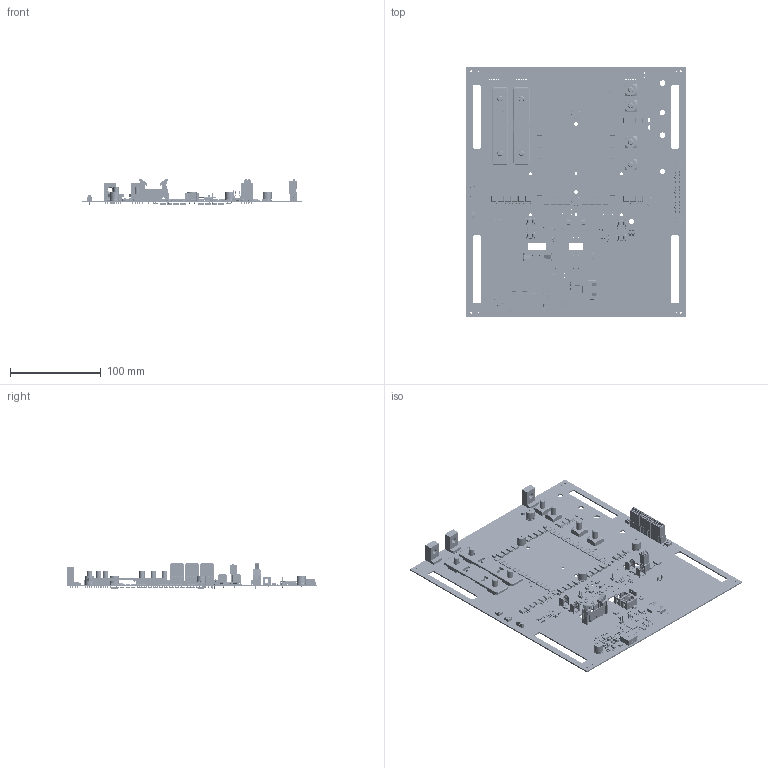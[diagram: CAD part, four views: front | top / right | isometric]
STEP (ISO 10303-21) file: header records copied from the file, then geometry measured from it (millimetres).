
FILE_DESCRIPTION(('KiCad electronic assembly'),'2;1');
FILE_NAME('smartPro.step','2025-07-12T19:04:55',('Pcbnew'),('Kicad'), 'Open CASCADE STEP processor 7.9','KiCad to STEP converter','Unknown' );
FILE_SCHEMA(('AUTOMOTIVE_DESIGN { 1 0 10303 214 1 1 1 1 }'));
Length unit declared in the file: millimetre
Products named in the file (77): smartPro 1; D_SMC; R_0603_1608Metric; C_0603_1608Metric; PinHeader_2x05_P1.27mm_Vertical_SMD; C_1210_3225Metric; CP_Radial_D10.0mm_P5.00mm; PinHeader_1x02_P2.54mm_Vertical; 61201022021; 10; 6120xx22x21_LEVIER_COURT; 6120xx21621_PIN; TO-252-2; smartPro 1.20.1; SOIC-8_5.3x5.3mm_P1.27mm; LED_0603_1608Metric; PQFN-8-EP_6x5mm_P1.27mm_Generic; SOT-23; LQH32CN2R2M53L; Rect1; Rect2; Rect3; Rect4; Rect5; Pad0; Pad1; 7461098; WSBS8518-35_500ÂµO; wsbs 8518 500 micro...; PIN-1001 FOR WSBS 100 E; 430152043826 (rev1); C_1206_3216Metric; SOT-353_SC-70-5; SOT-23-5; D_SMB; 74622106; Download_STEP_691304100004 (rev1); 691304100004; 691304100004_Bas; 6913041000xx_Levier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
Assembly tree (528 placements, depth 3):
  smartPro 1
    D_SMC  x33
    R_0603_1608Metric  x163
    C_0603_1608Metric  x74
    PinHeader_2x05_P1.27mm_Vertical_SMD
    C_1210_3225Metric  x19
    CP_Radial_D10.0mm_P5.00mm  x5
    PinHeader_1x02_P2.54mm_Vertical  x3
    61201022021
      10
      6120xx22x21_LEVIER_COURT  x2
      6120xx21621_PIN  x10
    TO-252-2  x12
      smartPro 1.20.1
    SOIC-8_5.3x5.3mm_P1.27mm
    LED_0603_1608Metric  x11
    PQFN-8-EP_6x5mm_P1.27mm_Generic  x65
    SOT-23  x9
    LQH32CN2R2M53L  x3
      Rect1
      Rect2
      Rect3
      Rect4
      Rect5
      Pad0
      Pad1
    7461098  x8
    WSBS8518-35_500ÂµO  x2
      wsbs 8518 500 micro...
      PIN-1001 FOR WSBS 100 E
    430152043826 (rev1)  x4
    C_1206_3216Metric  x9
    SOT-353_SC-70-5  x2
    SOT-23-5  x6
    D_SMB  x2
    74622106  x3
    Download_STEP_691304100004 (rev1)  x3
      691304100004
      691304100004_Bas
      6913041000xx_Levier
      6913041000xx_Pin
      6913041000xx_Lamelle
    HSOP-8-1EP_3.9x4.9mm_P1.27mm_EP2.41x3.1mm  x2
    ws-sltv_450301014042 (rev1)  x2
      cover
      slide
    SOT-23-8  x2
    45A-VERT-PAIR
    Download_STP_WE-LQFS-4818 (rev1)  x2
      4818_74406042_Housing
      4818_74406042
      4818_74406042
      4818_74406042_Pads
      Glue L
      Glue R
    SO-4_4.4x4.3mm_P2.54mm  x2
    SOT-23-6  x2
    PhoenixContact_MCV_1,5_2-G-3.5_1x02_P3.50mm_Vertical
    L_0805_2012Metric
    SOIC-8_3.9x4.9mm_P1.27mm  x2
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Bounding box: 241 x 275.04 x 29.5 mm (x, y, z)
Volume: 148624.4 mm3; surface area: 206440.7 mm2
Topology: 656 solids, 661 shells, 31477 faces, 81627 edges, 52252 vertices
Faces by surface type: plane 24229, cylinder 6095, bspline 881, cone 122, torus 78, extrusion 52, revolution 20
Full cylindrical faces by diameter (mm): 0.1 x28, 0.155 x2, 0.3 x24, 0.5 x1, 0.6 x6, 0.66 x1, 0.7 x19, 0.8 x6, 1 x74, 1.2 x44, 1.4 x2, 1.45 x275, 1.6 x4, 1.9 x2, 2.2 x4, 2.35 x2, 2.5 x16, 3.2 x6, 3.5 x4, 4.3 x2, 4.917 x3, 6 x21
Entity records: 289072 total; most frequent: CARTESIAN_POINT 47740, ORIENTED_EDGE 40985, DIRECTION 39199, EDGE_CURVE 20494, VECTOR 16009, LINE 15983, VERTEX_POINT 13125, AXIS2_PLACEMENT_3D 11593
